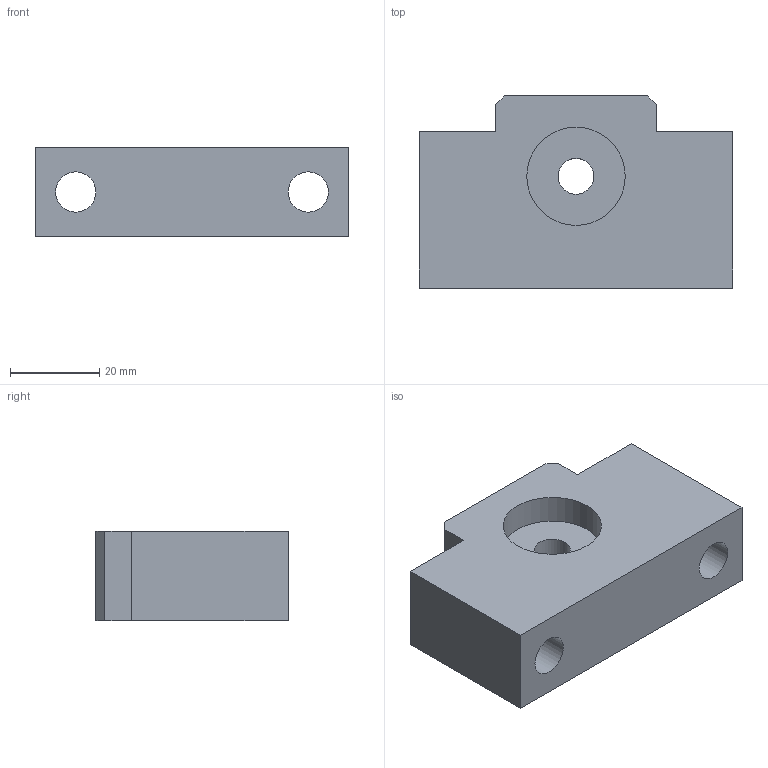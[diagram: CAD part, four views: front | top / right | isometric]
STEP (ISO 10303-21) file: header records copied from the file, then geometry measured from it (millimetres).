
FILE_DESCRIPTION(/* description */ (''),/* implementation_level */ '2;1');
FILE_NAME(/* name */ 'C:\Users\tenki620635\Desktop\官網\圖面\軸承座\3D\setp檔\AF10.stp',/* time_stamp */ '2020-11-20T17:28:13+08:00',/* author */ ('tenki620635'),/* organization */ (''),/* preprocessor_version */ 'ST-DEVELOPER v15.2',/* originating_system */ 'Autodesk Inventor 2014',/* authorisation */ '');
FILE_SCHEMA (('AUTOMOTIVE_DESIGN { 1 0 10303 214 3 1 1 }'));
Length unit declared in the file: millimetre
Products named in the file (1): AF10
Bounding box: 70 x 43 x 20 mm (x, y, z)
Volume: 42946.2 mm3; surface area: 12985.3 mm2
Topology: 1 solids, 1 shells, 23 faces, 51 edges, 34 vertices
Faces by surface type: plane 16, cylinder 7
Full cylindrical faces by diameter (mm): 8 x1, 9 x2, 14 x2, 22 x2
Entity records: 637 total; most frequent: DIRECTION 106, CARTESIAN_POINT 102, ORIENTED_EDGE 88, EDGE_CURVE 44, EDGE_LOOP 40, AXIS2_PLACEMENT_3D 38, VERTEX_POINT 34, LINE 30
